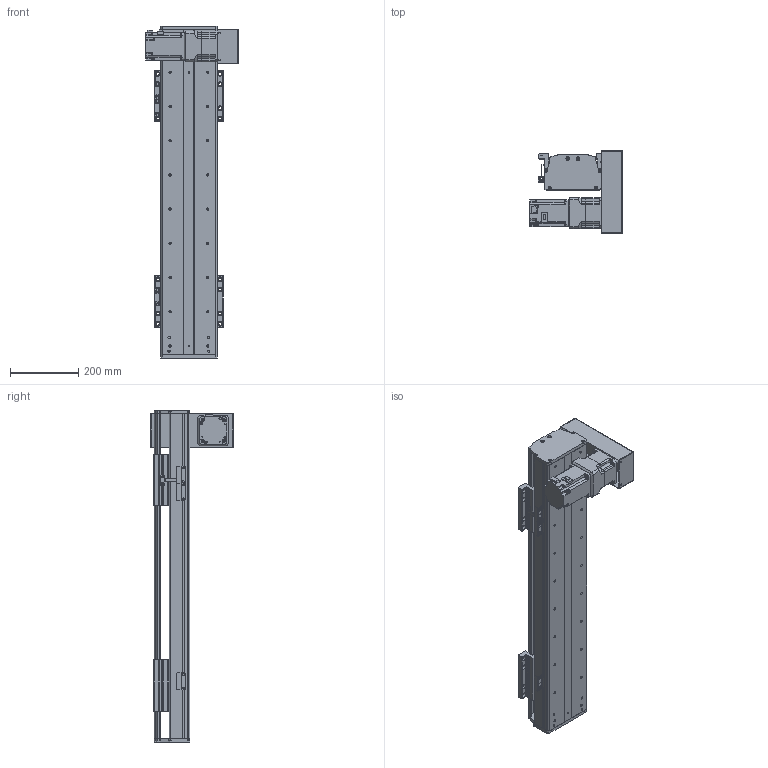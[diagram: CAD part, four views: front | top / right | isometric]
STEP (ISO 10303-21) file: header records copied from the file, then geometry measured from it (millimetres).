
FILE_DESCRIPTION(/* description */ (''),/* implementation_level */ '2;1');
FILE_NAME(/* name */ 'C:\Users\PC\Desktop\3D도면\STEP\새 폴더\DSB165-DR7G-W0600-L.stp',/* time_stamp */ '2018-06-25T15:50:39+09:00',/* author */ ('PC'),/* organization */ (''),/* preprocessor_version */ 'ST-DEVELOPER v16.5',/* originating_system */ 'Autodesk Inventor 2017',/* authorisation */ '');
FILE_SCHEMA (('AUTOMOTIVE_DESIGN { 1 0 10303 214 3 1 1 }'));
Length unit declared in the file: millimetre
Products named in the file (12): DSB165-DL7G-W0600-R_MIR; DSB165-BASE-L_MIR; hg-kr73__MIR; ab0901-p0401300102_MIR; 11-DSB165 BELT COVER_MIR; 12-DSB165-REAR COVER_MIR; 14-DSB165-FRONT COVER_MIR; DSB165-UP COVER_MIR; DSB165-TABLE(MSB20S)_MIR; DSR165-SENSOR DOG_MIR; SENSOR BRACKET(EE-SX674A)_MIR; pm-y65_step_MIR
Assembly tree (16 placements, depth 2):
  DSB165-DL7G-W0600-R_MIR
    DSB165-BASE-L_MIR
    hg-kr73__MIR
    ab0901-p0401300102_MIR
    11-DSB165 BELT COVER_MIR
    12-DSB165-REAR COVER_MIR
    14-DSB165-FRONT COVER_MIR
    DSB165-UP COVER_MIR
    DSB165-TABLE(MSB20S)_MIR  x2
    DSR165-SENSOR DOG_MIR
    pm-y65_step_MIR  x3
    SENSOR BRACKET(EE-SX674A)_MIR  x3
Bounding box: 270 x 242 x 970 mm (x, y, z)
Volume: 7039702 mm3; surface area: 1618845.9 mm2
Topology: 17 solids, 17 shells, 1649 faces, 4434 edges, 2924 vertices
Faces by surface type: plane 921, cylinder 610, cone 106, sphere 8, torus 4
Full cylindrical faces by diameter (mm): 2.459 x20, 3.5 x6, 4.134 x42, 4.5 x18, 5 x27, 5.5 x36, 5.9 x4, 6 x4, 6.6 x14, 6.647 x34, 6.8 x1, 7 x4, 7.6 x4, 8.4 x1, 8.5 x24, 8.7 x1, 9.5 x32, 11 x6, 14 x16, 19 x1, 22 x1, 24 x1, 25 x1, 28 x1, 67 x1, 70 x2, 80 x1
Entity records: 35752 total; most frequent: DIRECTION 6186, CARTESIAN_POINT 6015, ORIENTED_EDGE 5498, EDGE_CURVE 2749, AXIS2_PLACEMENT_3D 2263, VERTEX_POINT 1954, EDGE_LOOP 1695, LINE 1660
